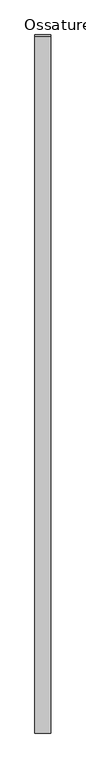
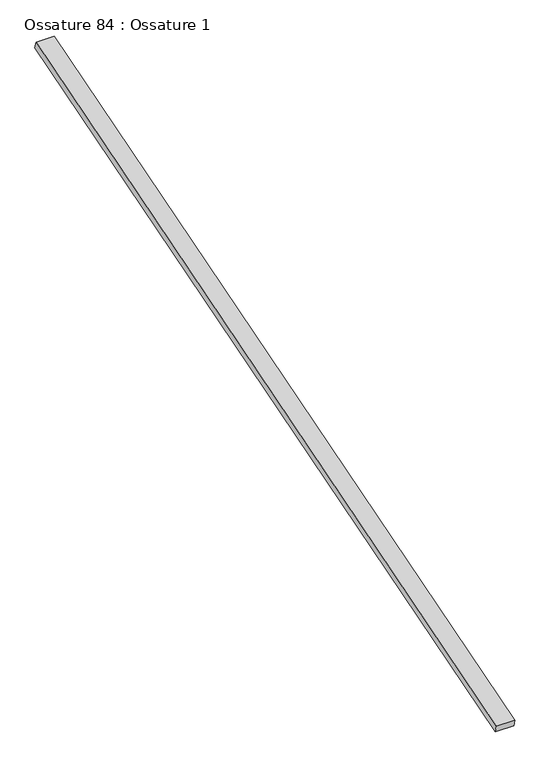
"""IFC4 building model written with IfcOpenShell, lengths in millimetres: beam geometry, Ossature 84 : Ossature 1."""

from ifc_helpers import new_model, si_unit, frame, origin, place, context, project, spatial, polyline, outline, extrude, source, transform, mapped, element, save


def ossature_84_ossature_1_758cf445(model_context):
    return source(origin(), model_context, "Body", "SweptSolid", [
        extrude(outline(polyline([(0.0, 0.0), (0.0, -4543.0299679), (-100.0, -4543.0299679), (-100.0, 0.0), (0.0, 0.0)])), frame((20290.8466393, -833.3913565, 8153.6336115), z_axis=(0.0, -0.28734788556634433, 0.9578262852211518), x_axis=(-1.0, 0.0, 0.0)), (0.0, 0.0, 1.0), 40.0),
    ])


if __name__ == "__main__":
    model = new_model("IFC4")
    model_context = context("Model", 3, world=origin())
    ifc_project = project(units=[si_unit("LENGTHUNIT", "METRE", prefix="MILLI")], contexts=[model_context])
    site = spatial("IfcSite", under=ifc_project)
    building = spatial("IfcBuilding", under=site)
    placement = place(None, origin())
    ossature_84_ossature_1_shape = ossature_84_ossature_1_758cf445(model_context)
    element("IfcBeam", 1, ObjectType="Ossature 84 : Ossature 1", at=placement, inside=building, context=model_context, shape_type="MappedRepresentation", body=[
        mapped(ossature_84_ossature_1_shape, transform((0.0, 0.0, 0.0), x_axis=(1.0, 0.0, 0.0), y_axis=(0.0, 1.0, 0.0), z_axis=(0.0, 0.0, 1.0))),
    ])
    save(model, "model.ifc")
